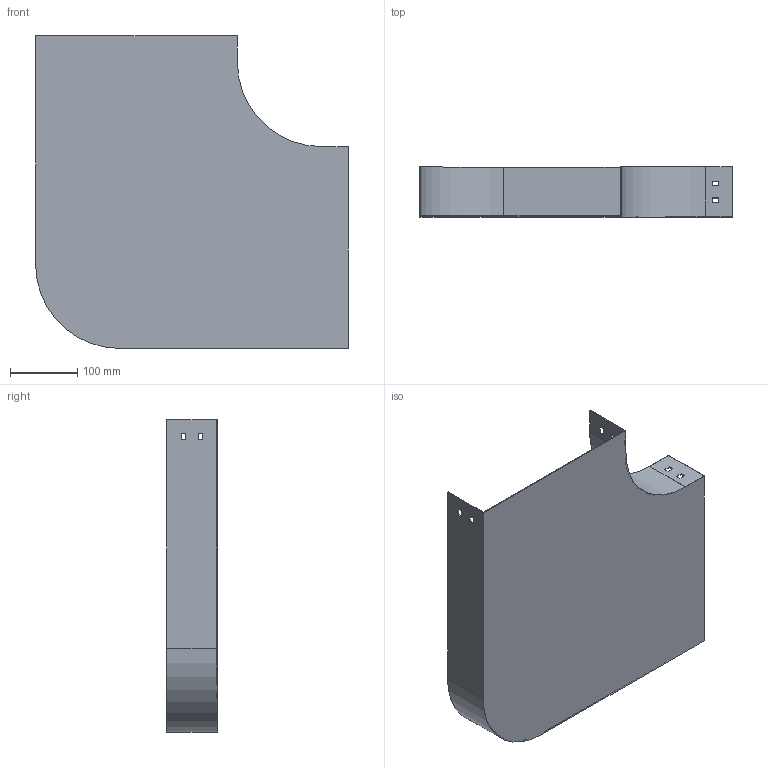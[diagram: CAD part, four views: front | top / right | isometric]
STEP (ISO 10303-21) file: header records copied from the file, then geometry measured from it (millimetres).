
FILE_DESCRIPTION (( 'STEP AP214' ), '1' );
FILE_NAME ('P9_307.step', '2025-07-16T09:20:53', ( '' ), ( '' ), 'SwSTEP 2.0', 'SolidWorks 2023', '' );
FILE_SCHEMA (( 'AUTOMOTIVE_DESIGN' ));
Length unit declared in the file: millimetre
Products named in the file (1): P9_307
Bounding box: 465 x 75 x 465 mm (x, y, z)
Volume: 409745.1 mm3; surface area: 549804.8 mm2
Topology: 1 solids, 1 shells, 50 faces, 144 edges, 96 vertices
Faces by surface type: plane 46, cylinder 4
Entity records: 1671 total; most frequent: CARTESIAN_POINT 291, ORIENTED_EDGE 288, DIRECTION 254, EDGE_CURVE 144, VECTOR 136, LINE 136, VERTEX_POINT 96, EDGE_LOOP 66
